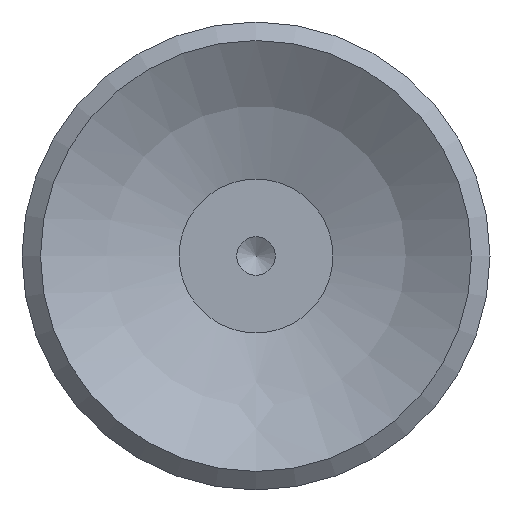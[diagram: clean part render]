
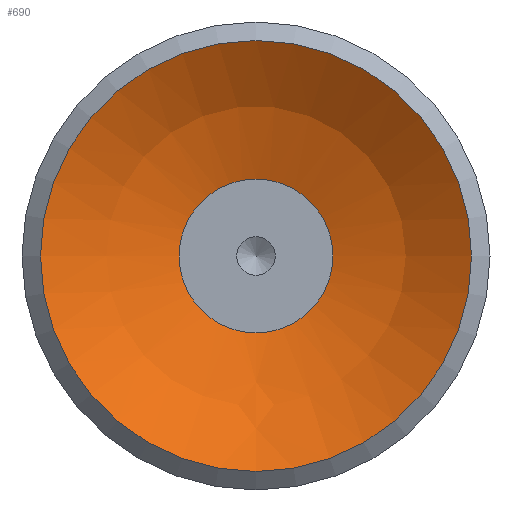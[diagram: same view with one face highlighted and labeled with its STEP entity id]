
A CAD part, front view. The second image highlights one B-rep face of the part: STEP entity #690.
In plain terms, the highlighted spherical face has radius 11.5 mm.
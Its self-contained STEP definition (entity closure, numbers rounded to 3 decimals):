
#690=ADVANCED_FACE('',(#1182,#1183),#1184,.F.);
#1182=FACE_OUTER_BOUND('',#1799,.T.);
#1183=FACE_OUTER_BOUND('',#1800,.T.);
#1184=SPHERICAL_SURFACE('',#1801,11.5);
#1799=EDGE_LOOP('',(#3433));
#1800=EDGE_LOOP('',(#3434));
#1801=AXIS2_PLACEMENT_3D('',#3435,#3436,#3437);
#3433=ORIENTED_EDGE('',*,*,#4306,.T.);
#3434=ORIENTED_EDGE('',*,*,#4350,.F.);
#3435=CARTESIAN_POINT('',(0.001,9.494,-22.735));
#3436=DIRECTION('',(0.0,0.,-1.0));
#3437=DIRECTION('',(1.0,0.0,0.0));
#4306=EDGE_CURVE('',#5047,#5047,#5048,.T.);
#4350=EDGE_CURVE('',#5120,#5120,#5121,.T.);
#5047=VERTEX_POINT('',#6958);
#5048=CIRCLE('',#6959,7.0);
#5120=VERTEX_POINT('',#7031);
#5121=CIRCLE('',#7032,2.5);
#6958=CARTESIAN_POINT('',(0.001,16.494,-13.611));
#6959=AXIS2_PLACEMENT_3D('',#8054,#8055,#8056);
#7031=CARTESIAN_POINT('',(0.001,11.994,-11.51));
#7032=AXIS2_PLACEMENT_3D('',#8186,#8187,#8188);
#8054=CARTESIAN_POINT('',(0.001,9.494,-13.611));
#8055=DIRECTION('',(0.0,0.,-1.0));
#8056=DIRECTION('',(0.0,1.0,0.));
#8186=CARTESIAN_POINT('',(0.001,9.494,-11.51));
#8187=DIRECTION('',(0.0,0.,-1.0));
#8188=DIRECTION('',(0.0,1.0,0.));
